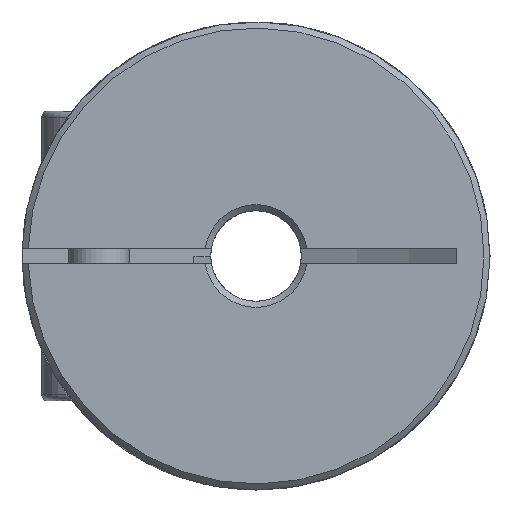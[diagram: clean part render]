
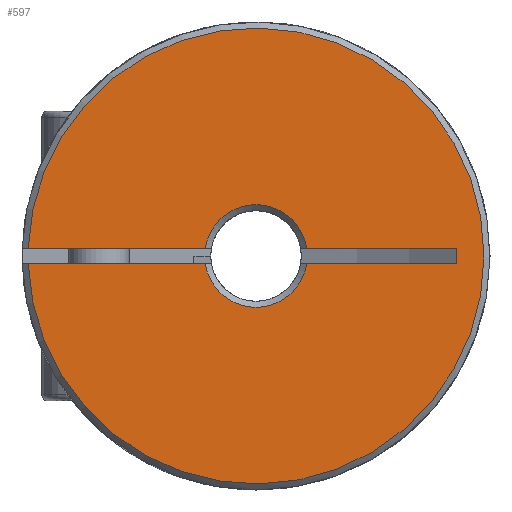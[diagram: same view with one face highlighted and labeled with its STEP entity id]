
A CAD part, left-side view. The second image highlights one B-rep face of the part: STEP entity #597.
In plain terms, the highlighted planar face has unit normal (-1, 0, 0).
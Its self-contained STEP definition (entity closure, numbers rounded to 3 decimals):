
#597 = ADVANCED_FACE( 'NONE', ( #1247 ), #1248, .F. );
#1247 = FACE_OUTER_BOUND( '', #1897, .T. );
#1248 = PLANE( '', #1898 );
#1897 = EDGE_LOOP( '', ( #3133, #3134, #3135, #3136, #3137, #3138, #3139, #3140 ) );
#1898 = AXIS2_PLACEMENT_3D( '', #3141, #3142, #3143 );
#3133 = ORIENTED_EDGE( '', *, *, #3750, .T. );
#3134 = ORIENTED_EDGE( '', *, *, #3850, .T. );
#3135 = ORIENTED_EDGE( '', *, *, #3772, .T. );
#3136 = ORIENTED_EDGE( '', *, *, #3644, .T. );
#3137 = ORIENTED_EDGE( '', *, *, #3499, .F. );
#3138 = ORIENTED_EDGE( '', *, *, #3851, .T. );
#3139 = ORIENTED_EDGE( '', *, *, #3852, .F. );
#3140 = ORIENTED_EDGE( '', *, *, #3542, .T. );
#3141 = CARTESIAN_POINT( '', ( 0., 1.5, 0. ) );
#3142 = DIRECTION( '', ( 1., 0., 0. ) );
#3143 = DIRECTION( '', ( 0., 1., 0. ) );
#3499 = EDGE_CURVE( 'NONE', #4106, #4108, #4109, .F. );
#3542 = EDGE_CURVE( 'NONE', #4172, #4176, #4178, .T. );
#3644 = EDGE_CURVE( 'NONE', #4330, #4108, #4331, .F. );
#3750 = EDGE_CURVE( 'NONE', #4176, #4473, #4475, .T. );
#3772 = EDGE_CURVE( 'NONE', #4505, #4330, #4506, .T. );
#3850 = EDGE_CURVE( 'NONE', #4473, #4505, #4602, .T. );
#3851 = EDGE_CURVE( 'NONE', #4106, #4603, #4604, .T. );
#3852 = EDGE_CURVE( 'NONE', #4172, #4603, #4605, .F. );
#4106 = VERTEX_POINT( 'NONE', #4990 );
#4108 = VERTEX_POINT( 'NONE', #4995 );
#4109 = LINE( '', #4996, #4997 );
#4172 = VERTEX_POINT( 'NONE', #5078 );
#4176 = VERTEX_POINT( 'NONE', #5085 );
#4178 = LINE( '', #5087, #5088 );
#4330 = VERTEX_POINT( 'NONE', #5257 );
#4331 = CIRCLE( '', #5258, 7.55 );
#4473 = VERTEX_POINT( 'NONE', #5517 );
#4475 = LINE( '', #5522, #5523 );
#4505 = VERTEX_POINT( 'NONE', #5559 );
#4506 = LINE( '', #5560, #5561 );
#4602 = CIRCLE( '', #5687, 1.7 );
#4603 = VERTEX_POINT( 'NONE', #5688 );
#4604 = CIRCLE( '', #5689, 1.7 );
#4605 = LINE( '', #5690, #5691 );
#4990 = CARTESIAN_POINT( '', ( 0., -1.682, -0.25 ) );
#4995 = CARTESIAN_POINT( '', ( 0., -7.546, -0.25 ) );
#4996 = CARTESIAN_POINT( '', ( 0., -4.5, -0.25 ) );
#4997 = VECTOR( '', #5980, 1000. );
#5078 = CARTESIAN_POINT( '', ( 0., 6.624, -0.25 ) );
#5085 = CARTESIAN_POINT( '', ( 0., 6.624, 0.25 ) );
#5087 = CARTESIAN_POINT( '', ( 0., 6.624, -0.25 ) );
#5088 = VECTOR( '', #6041, 1000. );
#5257 = CARTESIAN_POINT( '', ( 0., -7.546, 0.25 ) );
#5258 = AXIS2_PLACEMENT_3D( '', #6218, #6219, #6220 );
#5517 = CARTESIAN_POINT( '', ( 0., 1.682, 0.25 ) );
#5522 = CARTESIAN_POINT( '', ( 0., 1.5, 0.25 ) );
#5523 = VECTOR( '', #6360, 1000. );
#5559 = CARTESIAN_POINT( '', ( 0., -1.682, 0.25 ) );
#5560 = CARTESIAN_POINT( '', ( 0., 1.5, 0.25 ) );
#5561 = VECTOR( '', #6382, 1000. );
#5687 = AXIS2_PLACEMENT_3D( '', #6447, #6448, #6449 );
#5688 = CARTESIAN_POINT( '', ( 0., 1.682, -0.25 ) );
#5689 = AXIS2_PLACEMENT_3D( '', #6450, #6451, #6452 );
#5690 = CARTESIAN_POINT( '', ( 0., -4.5, -0.25 ) );
#5691 = VECTOR( '', #6453, 1000. );
#5980 = DIRECTION( '', ( 0., 1., 0. ) );
#6041 = DIRECTION( '', ( 0., 0., 1. ) );
#6218 = CARTESIAN_POINT( '', ( 0., 0., 0. ) );
#6219 = DIRECTION( '', ( 1., 0., 0. ) );
#6220 = DIRECTION( '', ( 0., 0., -1. ) );
#6360 = DIRECTION( '', ( 0., -1., 0. ) );
#6382 = DIRECTION( '', ( 0., -1., 0. ) );
#6447 = CARTESIAN_POINT( '', ( 0., 0., 0. ) );
#6448 = DIRECTION( '', ( 1., 0., 0. ) );
#6449 = DIRECTION( '', ( 0., 0., -1. ) );
#6450 = CARTESIAN_POINT( '', ( 0., 0., 0. ) );
#6451 = DIRECTION( '', ( 1., 0., 0. ) );
#6452 = DIRECTION( '', ( 0., 0., -1. ) );
#6453 = DIRECTION( '', ( 0., 1., 0. ) );
